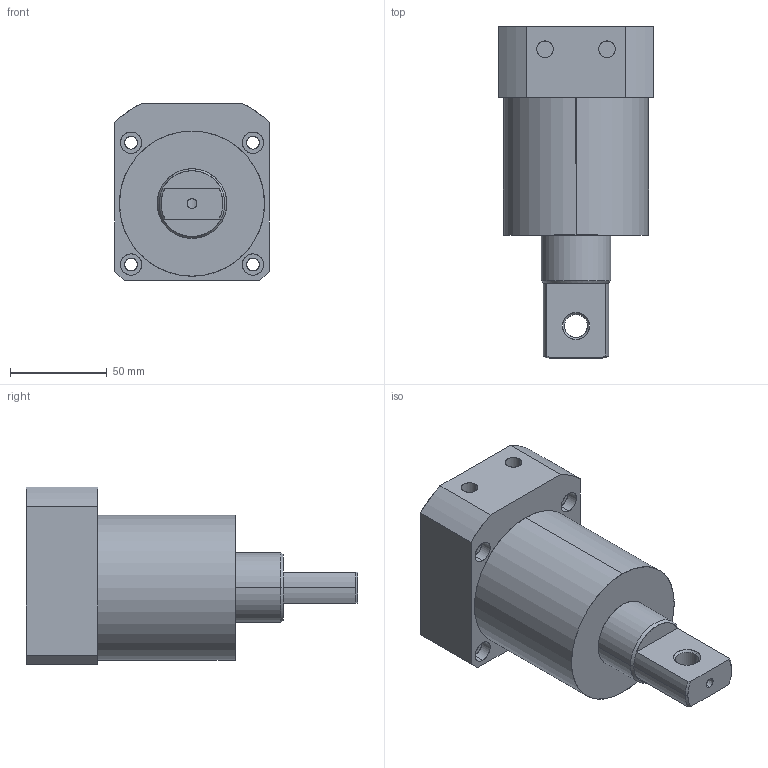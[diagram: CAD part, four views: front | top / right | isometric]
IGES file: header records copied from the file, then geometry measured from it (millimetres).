
Start section: SolidWorks IGES file using analytic representation for surfaces
Global section: file name: E:\karthik\CLASYS\Pneumatic Swing cylinders\Bottom cyl 0312-P\0312-0751\75.IGS; native system: SolidWorks 2010; preprocessor: SolidWorks 2010; author: karthik; date: 130914.165138; units: millimetre
Bounding box: 80 x 171.5 x 92 mm (x, y, z)
Surface area: 56365.1 mm2 (no closed solid volume)
Topology: 0 solids, 0 shells, 77 faces, 1459 edges, 1459 vertices
Faces by surface type: revolution 54, bspline 23
